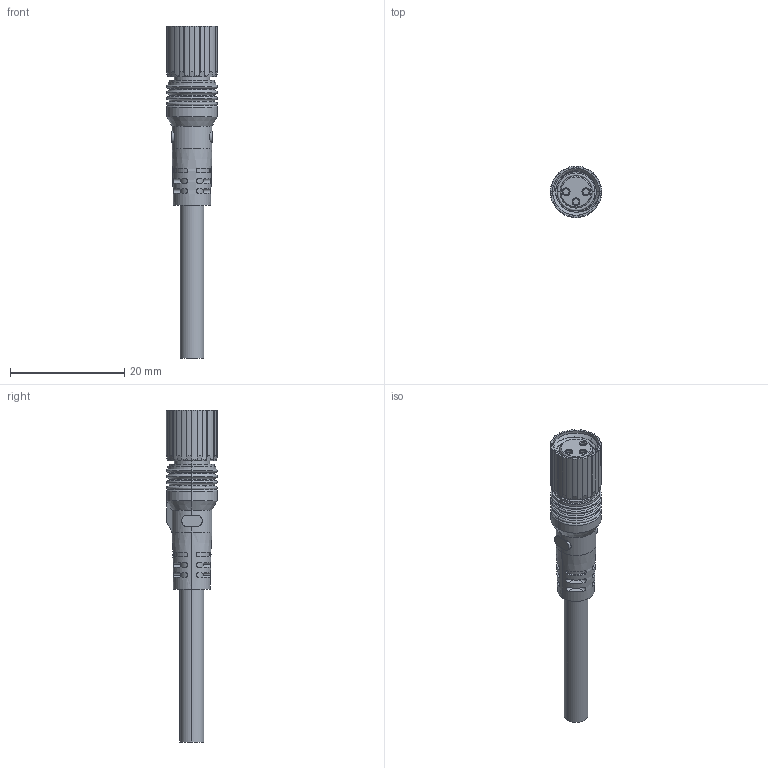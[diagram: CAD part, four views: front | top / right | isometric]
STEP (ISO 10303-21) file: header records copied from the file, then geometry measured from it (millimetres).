
FILE_DESCRIPTION (( 'STEP AP214' ), '1' );
FILE_NAME ('CM08-P3S-XXX.STEP', '2026-02-05T08:37:20', ( '' ), ( '' ), 'SwSTEP 2.0', 'SolidWorks 2024', '' );
FILE_SCHEMA (( 'AUTOMOTIVE_DESIGN' ));
Length unit declared in the file: millimetre
Products named in the file (1): CM08-P3S-XXX
Bounding box: 9 x 8.97 x 58.2 mm (x, y, z)
Volume: 1733.9 mm3; surface area: 1770.8 mm2
Topology: 2 solids, 2 shells, 249 faces, 614 edges, 388 vertices
Faces by surface type: cylinder 118, plane 74, torus 34, cone 20, bspline 3
Entity records: 8659 total; most frequent: CARTESIAN_POINT 2816, ORIENTED_EDGE 1228, DIRECTION 1222, EDGE_CURVE 614, AXIS2_PLACEMENT_3D 500, VERTEX_POINT 388, EDGE_LOOP 270, CIRCLE 253
